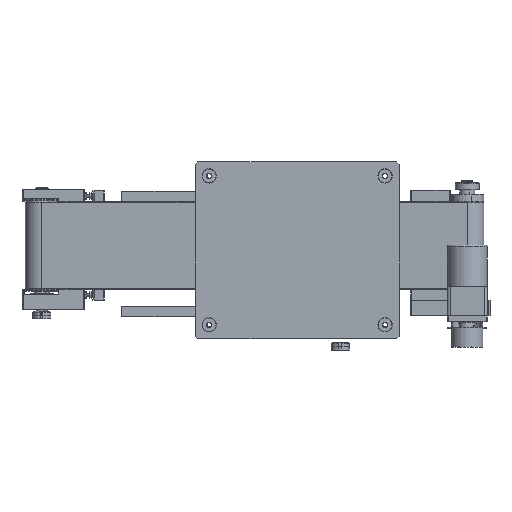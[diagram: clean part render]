
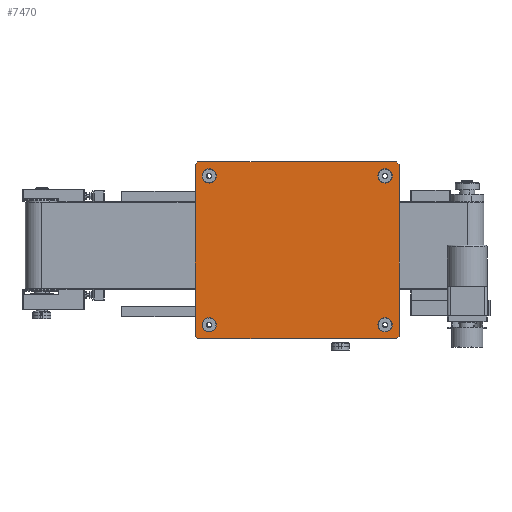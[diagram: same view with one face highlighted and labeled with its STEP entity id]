
A CAD part, front view. The second image highlights one B-rep face of the part: STEP entity #7470.
In plain terms, the highlighted planar face has unit normal (0, -1, 0) as drawn and (0, 0, -1) by its records, which use the part's own axes.
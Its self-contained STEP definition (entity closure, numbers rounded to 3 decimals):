
#4652=PLANE('',#49289);
#5074=FACE_BOUND('',#13224,.T.);
#5075=FACE_BOUND('',#13225,.T.);
#5076=FACE_BOUND('',#13226,.T.);
#5077=FACE_BOUND('',#13227,.T.);
#5078=FACE_BOUND('',#13228,.T.);
#7470=ADVANCED_FACE('',(#5074,#5075,#5076,#5077,#5078),#4652,.T.);
#13224=EDGE_LOOP('',(#32366,#32367));
#13225=EDGE_LOOP('',(#32368,#32369));
#13226=EDGE_LOOP('',(#32370,#32371));
#13227=EDGE_LOOP('',(#32372,#32373));
#13228=EDGE_LOOP('',(#32374,#32375,#32376,#32377,#32378,#32379,#32380,#32381));
#16257=LINE('',#82460,#19664);
#16261=LINE('',#82469,#19668);
#16265=LINE('',#82478,#19672);
#16271=LINE('',#82492,#19678);
#16277=LINE('',#82509,#19684);
#16278=LINE('',#82510,#19685);
#16279=LINE('',#82511,#19686);
#16280=LINE('',#82512,#19687);
#19664=VECTOR('',#60684,1.);
#19668=VECTOR('',#60690,1.);
#19672=VECTOR('',#60696,1.);
#19678=VECTOR('',#60704,1.);
#19684=VECTOR('',#60730,1.);
#19685=VECTOR('',#60731,1.);
#19686=VECTOR('',#60732,1.);
#19687=VECTOR('',#60733,1.);
#32366=ORIENTED_EDGE('',*,*,#43184,.T.);
#32367=ORIENTED_EDGE('',*,*,#43132,.T.);
#32368=ORIENTED_EDGE('',*,*,#43185,.T.);
#32369=ORIENTED_EDGE('',*,*,#43140,.T.);
#32370=ORIENTED_EDGE('',*,*,#43186,.T.);
#32371=ORIENTED_EDGE('',*,*,#43148,.T.);
#32372=ORIENTED_EDGE('',*,*,#43187,.T.);
#32373=ORIENTED_EDGE('',*,*,#43156,.T.);
#32374=ORIENTED_EDGE('',*,*,#43174,.F.);
#32375=ORIENTED_EDGE('',*,*,#43188,.T.);
#32376=ORIENTED_EDGE('',*,*,#43168,.F.);
#32377=ORIENTED_EDGE('',*,*,#43189,.T.);
#32378=ORIENTED_EDGE('',*,*,#43164,.F.);
#32379=ORIENTED_EDGE('',*,*,#43190,.T.);
#32380=ORIENTED_EDGE('',*,*,#43160,.F.);
#32381=ORIENTED_EDGE('',*,*,#43191,.T.);
#36744=VERTEX_POINT('',#82398);
#36745=VERTEX_POINT('',#82399);
#36752=VERTEX_POINT('',#82416);
#36753=VERTEX_POINT('',#82417);
#36760=VERTEX_POINT('',#82434);
#36761=VERTEX_POINT('',#82435);
#36768=VERTEX_POINT('',#82452);
#36769=VERTEX_POINT('',#82453);
#36772=VERTEX_POINT('',#82461);
#36773=VERTEX_POINT('',#82462);
#36776=VERTEX_POINT('',#82470);
#36777=VERTEX_POINT('',#82471);
#36780=VERTEX_POINT('',#82479);
#36781=VERTEX_POINT('',#82480);
#36786=VERTEX_POINT('',#82491);
#36787=VERTEX_POINT('',#82493);
#43132=EDGE_CURVE('',#36744,#36745,#45247,.T.);
#43140=EDGE_CURVE('',#36752,#36753,#45251,.T.);
#43148=EDGE_CURVE('',#36760,#36761,#45255,.T.);
#43156=EDGE_CURVE('',#36768,#36769,#45259,.T.);
#43160=EDGE_CURVE('',#36772,#36773,#16257,.T.);
#43164=EDGE_CURVE('',#36776,#36777,#16261,.T.);
#43168=EDGE_CURVE('',#36780,#36781,#16265,.T.);
#43174=EDGE_CURVE('',#36786,#36787,#16271,.T.);
#43184=EDGE_CURVE('',#36745,#36744,#45265,.T.);
#43185=EDGE_CURVE('',#36753,#36752,#45266,.T.);
#43186=EDGE_CURVE('',#36761,#36760,#45267,.T.);
#43187=EDGE_CURVE('',#36769,#36768,#45268,.T.);
#43188=EDGE_CURVE('',#36786,#36781,#16277,.T.);
#43189=EDGE_CURVE('',#36780,#36777,#16278,.T.);
#43190=EDGE_CURVE('',#36776,#36773,#16279,.T.);
#43191=EDGE_CURVE('',#36772,#36787,#16280,.T.);
#45247=CIRCLE('',#49255,4.5);
#45251=CIRCLE('',#49261,4.5);
#45255=CIRCLE('',#49267,4.5);
#45259=CIRCLE('',#49273,4.5);
#45265=CIRCLE('',#49285,4.5);
#45266=CIRCLE('',#49286,4.5);
#45267=CIRCLE('',#49287,4.5);
#45268=CIRCLE('',#49288,4.5);
#49255=AXIS2_PLACEMENT_3D('',#82397,#60628,#60629);
#49261=AXIS2_PLACEMENT_3D('',#82415,#60644,#60645);
#49267=AXIS2_PLACEMENT_3D('',#82433,#60660,#60661);
#49273=AXIS2_PLACEMENT_3D('',#82451,#60676,#60677);
#49285=AXIS2_PLACEMENT_3D('',#82505,#60722,#60723);
#49286=AXIS2_PLACEMENT_3D('',#82506,#60724,#60725);
#49287=AXIS2_PLACEMENT_3D('',#82507,#60726,#60727);
#49288=AXIS2_PLACEMENT_3D('',#82508,#60728,#60729);
#49289=AXIS2_PLACEMENT_3D('',#82513,#60734,#60735);
#60628=DIRECTION('',(0.,0.,1.));
#60629=DIRECTION('',(1.,0.,0.));
#60644=DIRECTION('',(0.,0.,1.));
#60645=DIRECTION('',(1.,0.,0.));
#60660=DIRECTION('',(0.,0.,1.));
#60661=DIRECTION('',(1.,0.,0.));
#60676=DIRECTION('',(0.,0.,1.));
#60677=DIRECTION('',(1.,0.,0.));
#60684=DIRECTION('',(0.,-1.,0.));
#60690=DIRECTION('',(1.,0.,0.));
#60696=DIRECTION('',(0.,1.,0.));
#60704=DIRECTION('',(-1.,0.,0.));
#60722=DIRECTION('',(0.,0.,1.));
#60723=DIRECTION('',(1.,0.,0.));
#60724=DIRECTION('',(0.,0.,1.));
#60725=DIRECTION('',(1.,0.,0.));
#60726=DIRECTION('',(0.,0.,1.));
#60727=DIRECTION('',(1.,0.,0.));
#60728=DIRECTION('',(0.,0.,1.));
#60729=DIRECTION('',(1.,0.,0.));
#60730=DIRECTION('',(0.707,-0.707,0.));
#60731=DIRECTION('',(-0.707,-0.707,0.));
#60732=DIRECTION('',(-0.707,0.707,0.));
#60733=DIRECTION('',(0.707,0.707,0.));
#60734=DIRECTION('',(0.,0.,-1.));
#60735=DIRECTION('',(1.,0.,0.));
#82397=CARTESIAN_POINT('',(25.,25.,0.));
#82398=CARTESIAN_POINT('',(20.5,25.,0.));
#82399=CARTESIAN_POINT('',(29.5,25.,0.));
#82415=CARTESIAN_POINT('',(25.,335.,0.));
#82416=CARTESIAN_POINT('',(20.5,335.,0.));
#82417=CARTESIAN_POINT('',(29.5,335.,0.));
#82433=CARTESIAN_POINT('',(287.389,335.,0.));
#82434=CARTESIAN_POINT('',(282.889,335.,0.));
#82435=CARTESIAN_POINT('',(291.889,335.,0.));
#82451=CARTESIAN_POINT('',(287.389,25.,0.));
#82452=CARTESIAN_POINT('',(282.889,25.,0.));
#82453=CARTESIAN_POINT('',(291.889,25.,0.));
#82460=CARTESIAN_POINT('',(0.,0.,0.));
#82461=CARTESIAN_POINT('',(0.,355.,0.));
#82462=CARTESIAN_POINT('',(0.,5.,0.));
#82469=CARTESIAN_POINT('',(0.,0.,0.));
#82470=CARTESIAN_POINT('',(5.,0.,0.));
#82471=CARTESIAN_POINT('',(307.,0.,0.));
#82478=CARTESIAN_POINT('',(312.,0.,0.));
#82479=CARTESIAN_POINT('',(312.,5.,0.));
#82480=CARTESIAN_POINT('',(312.,355.,0.));
#82491=CARTESIAN_POINT('',(307.,360.,0.));
#82492=CARTESIAN_POINT('',(0.,360.,0.));
#82493=CARTESIAN_POINT('',(5.,360.,0.));
#82505=CARTESIAN_POINT('',(25.,25.,0.));
#82506=CARTESIAN_POINT('',(25.,335.,0.));
#82507=CARTESIAN_POINT('',(287.389,335.,0.));
#82508=CARTESIAN_POINT('',(287.389,25.,0.));
#82509=CARTESIAN_POINT('',(153.5,513.5,0.));
#82510=CARTESIAN_POINT('',(333.5,26.5,0.));
#82511=CARTESIAN_POINT('',(-177.5,182.5,0.));
#82512=CARTESIAN_POINT('',(2.5,357.5,0.));
#82513=CARTESIAN_POINT('',(0.,360.,0.));
